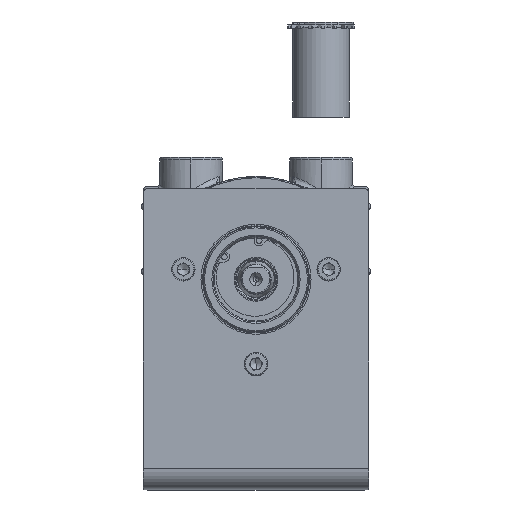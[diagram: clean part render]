
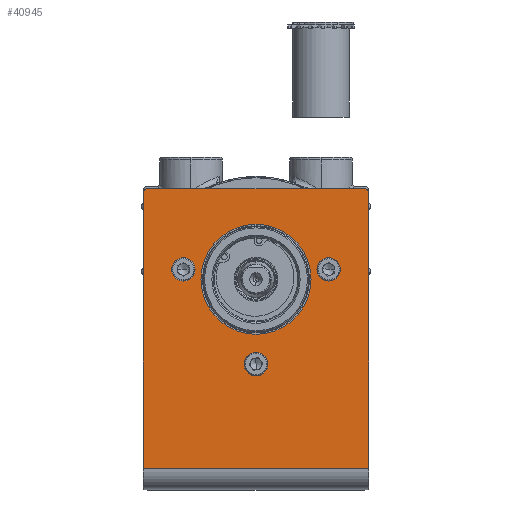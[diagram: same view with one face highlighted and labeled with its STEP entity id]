
A CAD part, top view. The second image highlights one B-rep face of the part: STEP entity #40945.
In plain terms, the highlighted planar face has unit normal (0, 0, 1).
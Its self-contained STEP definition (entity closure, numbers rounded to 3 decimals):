
#831 = VERTEX_POINT ( 'NONE', #2120 ) ;
#2120 = CARTESIAN_POINT ( 'NONE',  ( -27.216, 8.23, 33.005 ) ) ;
#3160 = DIRECTION ( 'NONE',  ( 0., 0., 1. ) ) ;
#3371 = VERTEX_POINT ( 'NONE', #74491 ) ;
#5659 = CARTESIAN_POINT ( 'NONE',  ( 45.75, 40.3, 33.005 ) ) ;
#5813 = LINE ( 'NONE', #50262, #102638 ) ;
#6515 = DIRECTION ( 'NONE',  ( 1., 0., 0. ) ) ;
#6888 = EDGE_CURVE ( 'NONE', #79328, #43724, #14749, .T. ) ;
#7197 = VERTEX_POINT ( 'NONE', #29271 ) ;
#7951 = ORIENTED_EDGE ( 'NONE', *, *, #89897, .F. ) ;
#8668 = CARTESIAN_POINT ( 'NONE',  ( -47.75, -75.9, 33.005 ) ) ;
#10780 = FACE_OUTER_BOUND ( 'NONE', #80383, .T. ) ;
#11263 = CARTESIAN_POINT ( 'NONE',  ( -30.716, 8.23, 33.005 ) ) ;
#12731 = ORIENTED_EDGE ( 'NONE', *, *, #80058, .F. ) ;
#12978 = EDGE_CURVE ( 'NONE', #3371, #56192, #66433, .T. ) ;
#13453 = PLANE ( 'NONE',  #40738 ) ;
#14749 = CIRCLE ( 'NONE', #23068, 3.5 ) ;
#16319 = ORIENTED_EDGE ( 'NONE', *, *, #109205, .F. ) ;
#18987 = CARTESIAN_POINT ( 'NONE',  ( 0., 4., 33.005 ) ) ;
#19017 = CARTESIAN_POINT ( 'NONE',  ( 23.25, 4., 33.005 ) ) ;
#19136 = DIRECTION ( 'NONE',  ( 1., 0., 0. ) ) ;
#19816 = ORIENTED_EDGE ( 'NONE', *, *, #74287, .F. ) ;
#20215 = CARTESIAN_POINT ( 'NONE',  ( 47.75, 40.3, 33.005 ) ) ;
#21083 = DIRECTION ( 'NONE',  ( 1., 0., 0. ) ) ;
#21163 = ORIENTED_EDGE ( 'NONE', *, *, #96813, .F. ) ;
#23068 = AXIS2_PLACEMENT_3D ( 'NONE', #82529, #64180, #92398 ) ;
#23500 = VERTEX_POINT ( 'NONE', #52663 ) ;
#23550 = AXIS2_PLACEMENT_3D ( 'NONE', #11263, #76850, #21083 ) ;
#24630 = AXIS2_PLACEMENT_3D ( 'NONE', #106318, #94059, #30978 ) ;
#25113 = ORIENTED_EDGE ( 'NONE', *, *, #90660, .T. ) ;
#25138 = DIRECTION ( 'NONE',  ( 0., 1., 0. ) ) ;
#25238 = CARTESIAN_POINT ( 'NONE',  ( 47.75, -84.9, 33.005 ) ) ;
#25290 = CARTESIAN_POINT ( 'NONE',  ( -23.25, 4., 33.005 ) ) ;
#26173 = AXIS2_PLACEMENT_3D ( 'NONE', #67102, #66304, #19136 ) ;
#26815 = VECTOR ( 'NONE', #30061, 1000. ) ;
#27931 = AXIS2_PLACEMENT_3D ( 'NONE', #34455, #62772, #6515 ) ;
#28084 = CARTESIAN_POINT ( 'NONE',  ( -47.75, 40.3, 33.005 ) ) ;
#28490 = EDGE_CURVE ( 'NONE', #3371, #55854, #74708, .T. ) ;
#29271 = CARTESIAN_POINT ( 'NONE',  ( -34.216, 8.23, 33.005 ) ) ;
#29474 = VERTEX_POINT ( 'NONE', #37320 ) ;
#30061 = DIRECTION ( 'NONE',  ( -1., 0., 0. ) ) ;
#30978 = DIRECTION ( 'NONE',  ( 1., 0., 0. ) ) ;
#31647 = EDGE_CURVE ( 'NONE', #38406, #45959, #97132, .T. ) ;
#32361 = LINE ( 'NONE', #100122, #92223 ) ;
#33235 = EDGE_LOOP ( 'NONE', ( #102552, #12731 ) ) ;
#33237 = EDGE_CURVE ( 'NONE', #56192, #55658, #32361, .T. ) ;
#34455 = CARTESIAN_POINT ( 'NONE',  ( -30.716, 8.23, 33.005 ) ) ;
#37320 = CARTESIAN_POINT ( 'NONE',  ( 34.216, 8.23, 33.005 ) ) ;
#37984 = AXIS2_PLACEMENT_3D ( 'NONE', #18987, #47342, #46134 ) ;
#38406 = VERTEX_POINT ( 'NONE', #19017 ) ;
#40034 = CIRCLE ( 'NONE', #27931, 3.5 ) ;
#40738 = AXIS2_PLACEMENT_3D ( 'NONE', #115473, #3160, #50401 ) ;
#40945 = ADVANCED_FACE ( 'NONE', ( #59317, #119272, #85594, #60732, #10780 ), #13453, .T. ) ;
#40997 = VECTOR ( 'NONE', #90806, 1000. ) ;
#43724 = VERTEX_POINT ( 'NONE', #80237 ) ;
#44290 = CIRCLE ( 'NONE', #90865, 2. ) ;
#45890 = DIRECTION ( 'NONE',  ( 0., 0., 1. ) ) ;
#45959 = VERTEX_POINT ( 'NONE', #25290 ) ;
#46134 = DIRECTION ( 'NONE',  ( 1., 0., 0. ) ) ;
#46679 = CIRCLE ( 'NONE', #24630, 3.5 ) ;
#47342 = DIRECTION ( 'NONE',  ( 0., 0., 1. ) ) ;
#50262 = CARTESIAN_POINT ( 'NONE',  ( 47.75, 42.3, 33.005 ) ) ;
#50401 = DIRECTION ( 'NONE',  ( 1., 0., 0. ) ) ;
#52512 = DIRECTION ( 'NONE',  ( 0., 0., 1. ) ) ;
#52663 = CARTESIAN_POINT ( 'NONE',  ( -45.75, 42.3, 33.005 ) ) ;
#53295 = ORIENTED_EDGE ( 'NONE', *, *, #28490, .T. ) ;
#54111 = CARTESIAN_POINT ( 'NONE',  ( 30.716, 8.23, 33.005 ) ) ;
#55658 = VERTEX_POINT ( 'NONE', #28084 ) ;
#55854 = VERTEX_POINT ( 'NONE', #20215 ) ;
#56192 = VERTEX_POINT ( 'NONE', #8668 ) ;
#56848 = CARTESIAN_POINT ( 'NONE',  ( 0., -31.8, 33.005 ) ) ;
#58485 = DIRECTION ( 'NONE',  ( -1., 0., 0. ) ) ;
#59243 = ORIENTED_EDGE ( 'NONE', *, *, #107067, .T. ) ;
#59317 = FACE_BOUND ( 'NONE', #99723, .T. ) ;
#59653 = CIRCLE ( 'NONE', #37984, 23.25 ) ;
#60732 = FACE_BOUND ( 'NONE', #33235, .T. ) ;
#62772 = DIRECTION ( 'NONE',  ( 0., 0., 1. ) ) ;
#63064 = CARTESIAN_POINT ( 'NONE',  ( -45.75, 40.3, 33.005 ) ) ;
#63612 = ORIENTED_EDGE ( 'NONE', *, *, #31647, .F. ) ;
#64180 = DIRECTION ( 'NONE',  ( 0., 0., 1. ) ) ;
#65694 = ORIENTED_EDGE ( 'NONE', *, *, #12978, .F. ) ;
#66230 = DIRECTION ( 'NONE',  ( 0., 0., 1. ) ) ;
#66304 = DIRECTION ( 'NONE',  ( 0., 0., 1. ) ) ;
#66433 = LINE ( 'NONE', #106233, #26815 ) ;
#67102 = CARTESIAN_POINT ( 'NONE',  ( 0., 4., 33.005 ) ) ;
#67386 = CIRCLE ( 'NONE', #92661, 3.5 ) ;
#72307 = CIRCLE ( 'NONE', #119731, 3.5 ) ;
#73328 = CARTESIAN_POINT ( 'NONE',  ( 3.5, -31.8, 33.005 ) ) ;
#74287 = EDGE_CURVE ( 'NONE', #831, #7197, #40034, .T. ) ;
#74491 = CARTESIAN_POINT ( 'NONE',  ( 47.75, -75.9, 33.005 ) ) ;
#74708 = LINE ( 'NONE', #25238, #40997 ) ;
#74815 = EDGE_CURVE ( 'NONE', #23500, #55658, #97118, .T. ) ;
#76850 = DIRECTION ( 'NONE',  ( 0., 0., 1. ) ) ;
#77999 = CIRCLE ( 'NONE', #23550, 3.5 ) ;
#79077 = VERTEX_POINT ( 'NONE', #98770 ) ;
#79328 = VERTEX_POINT ( 'NONE', #73328 ) ;
#79751 = AXIS2_PLACEMENT_3D ( 'NONE', #63064, #119452, #90448 ) ;
#80058 = EDGE_CURVE ( 'NONE', #79077, #29474, #46679, .T. ) ;
#80237 = CARTESIAN_POINT ( 'NONE',  ( -3.5, -31.8, 33.005 ) ) ;
#80383 = EDGE_LOOP ( 'NONE', ( #25113, #90732, #113407, #65694, #53295, #59243 ) ) ;
#82529 = CARTESIAN_POINT ( 'NONE',  ( 0., -31.8, 33.005 ) ) ;
#84625 = DIRECTION ( 'NONE',  ( 1., 0., 0. ) ) ;
#85594 = FACE_BOUND ( 'NONE', #102555, .T. ) ;
#87348 = ORIENTED_EDGE ( 'NONE', *, *, #6888, .F. ) ;
#89318 = DIRECTION ( 'NONE',  ( 1., 0., 0. ) ) ;
#89897 = EDGE_CURVE ( 'NONE', #7197, #831, #77999, .T. ) ;
#90448 = DIRECTION ( 'NONE',  ( 1., 0., 0. ) ) ;
#90660 = EDGE_CURVE ( 'NONE', #91442, #23500, #5813, .T. ) ;
#90732 = ORIENTED_EDGE ( 'NONE', *, *, #74815, .T. ) ;
#90806 = DIRECTION ( 'NONE',  ( 0., 1., 0. ) ) ;
#90865 = AXIS2_PLACEMENT_3D ( 'NONE', #5659, #52512, #89318 ) ;
#91442 = VERTEX_POINT ( 'NONE', #114357 ) ;
#92223 = VECTOR ( 'NONE', #25138, 1000. ) ;
#92398 = DIRECTION ( 'NONE',  ( 1., 0., 0. ) ) ;
#92661 = AXIS2_PLACEMENT_3D ( 'NONE', #56848, #66230, #84625 ) ;
#93319 = EDGE_LOOP ( 'NONE', ( #63612, #16319 ) ) ;
#94059 = DIRECTION ( 'NONE',  ( 0., 0., 1. ) ) ;
#96813 = EDGE_CURVE ( 'NONE', #43724, #79328, #67386, .T. ) ;
#97118 = CIRCLE ( 'NONE', #79751, 2. ) ;
#97132 = CIRCLE ( 'NONE', #26173, 23.25 ) ;
#98770 = CARTESIAN_POINT ( 'NONE',  ( 27.216, 8.23, 33.005 ) ) ;
#99723 = EDGE_LOOP ( 'NONE', ( #19816, #7951 ) ) ;
#100122 = CARTESIAN_POINT ( 'NONE',  ( -47.75, -84.9, 33.005 ) ) ;
#102552 = ORIENTED_EDGE ( 'NONE', *, *, #110545, .F. ) ;
#102555 = EDGE_LOOP ( 'NONE', ( #87348, #21163 ) ) ;
#102638 = VECTOR ( 'NONE', #58485, 1000. ) ;
#106233 = CARTESIAN_POINT ( 'NONE',  ( 47.75, -75.9, 33.005 ) ) ;
#106318 = CARTESIAN_POINT ( 'NONE',  ( 30.716, 8.23, 33.005 ) ) ;
#107067 = EDGE_CURVE ( 'NONE', #55854, #91442, #44290, .T. ) ;
#109205 = EDGE_CURVE ( 'NONE', #45959, #38406, #59653, .T. ) ;
#110139 = DIRECTION ( 'NONE',  ( 1., 0., 0. ) ) ;
#110545 = EDGE_CURVE ( 'NONE', #29474, #79077, #72307, .T. ) ;
#113407 = ORIENTED_EDGE ( 'NONE', *, *, #33237, .F. ) ;
#114357 = CARTESIAN_POINT ( 'NONE',  ( 45.75, 42.3, 33.005 ) ) ;
#115473 = CARTESIAN_POINT ( 'NONE',  ( 47.75, -84.9, 33.005 ) ) ;
#119272 = FACE_BOUND ( 'NONE', #93319, .T. ) ;
#119452 = DIRECTION ( 'NONE',  ( 0., 0., 1. ) ) ;
#119731 = AXIS2_PLACEMENT_3D ( 'NONE', #54111, #45890, #110139 ) ;
